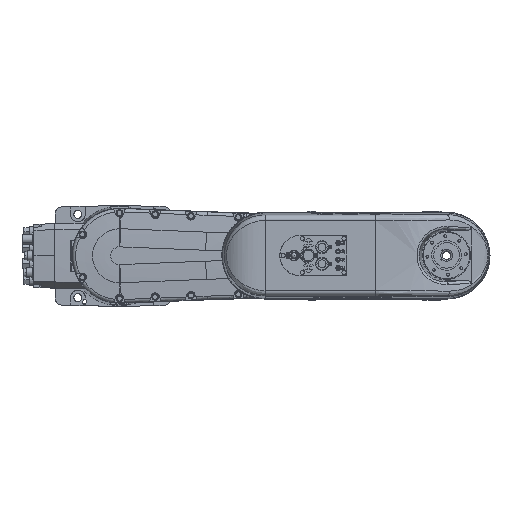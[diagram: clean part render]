
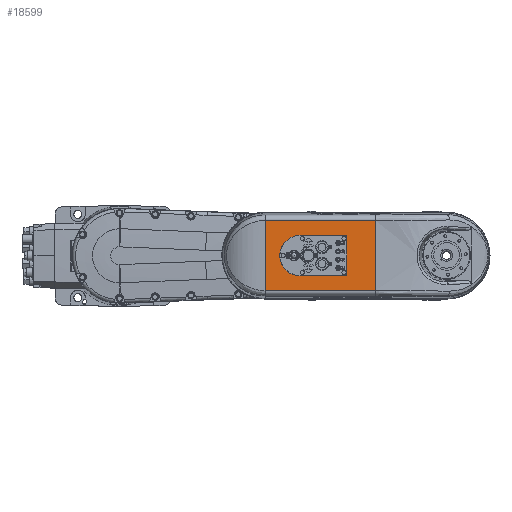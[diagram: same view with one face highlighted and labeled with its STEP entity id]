
A CAD part, top view. The second image highlights one B-rep face of the part: STEP entity #18599.
In plain terms, the highlighted planar face has unit normal (0, 0, 1).
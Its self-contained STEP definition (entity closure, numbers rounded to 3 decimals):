
#91 = ORIENTED_EDGE ( 'NONE', *, *, #44619, .F. ) ;
#2789 = DIRECTION ( 'NONE',  ( 0., 1., 0. ) ) ;
#4004 = AXIS2_PLACEMENT_3D ( 'NONE', #74262, #44926, #35835 ) ;
#4149 = VERTEX_POINT ( 'NONE', #56713 ) ;
#4876 = VECTOR ( 'NONE', #6883, 1000. ) ;
#6363 = EDGE_CURVE ( 'NONE', #64937, #77868, #68388, .T. ) ;
#6883 = DIRECTION ( 'NONE',  ( 1., 0., 0. ) ) ;
#7455 = EDGE_CURVE ( 'NONE', #67828, #27704, #80700, .T. ) ;
#7805 = VERTEX_POINT ( 'NONE', #58183 ) ;
#9921 = CARTESIAN_POINT ( 'NONE',  ( 430., -705.455, 457.7 ) ) ;
#9942 = CARTESIAN_POINT ( 'NONE',  ( 382.5, 33.172, 457.7 ) ) ;
#10127 = CARTESIAN_POINT ( 'NONE',  ( 245., 59.156, 457.7 ) ) ;
#10426 = LINE ( 'NONE', #9921, #66473 ) ;
#11393 = CARTESIAN_POINT ( 'NONE',  ( 382.5, 34., 457.7 ) ) ;
#13379 = LINE ( 'NONE', #65989, #92528 ) ;
#14740 = CARTESIAN_POINT ( 'NONE',  ( 380.501, -34., 457.7 ) ) ;
#15968 = CARTESIAN_POINT ( 'NONE',  ( 382.5, -32.001, 457.7 ) ) ;
#16703 = CARTESIAN_POINT ( 'NONE',  ( 382.5, 34., 457.7 ) ) ;
#16935 = FACE_OUTER_BOUND ( 'NONE', #59125, .T. ) ;
#17011 = DIRECTION ( 'NONE',  ( 0., 1., 0. ) ) ;
#17260 = ORIENTED_EDGE ( 'NONE', *, *, #68317, .T. ) ;
#17294 = ORIENTED_EDGE ( 'NONE', *, *, #7455, .F. ) ;
#18211 = LINE ( 'NONE', #16703, #76614 ) ;
#18599 = ADVANCED_FACE ( 'NONE', ( #46808, #16935 ), #94331, .T. ) ;
#21573 = LINE ( 'NONE', #28669, #4876 ) ;
#21765 = ORIENTED_EDGE ( 'NONE', *, *, #54367, .F. ) ;
#21863 = VECTOR ( 'NONE', #39509, 1000. ) ;
#23748 = VERTEX_POINT ( 'NONE', #29209 ) ;
#24017 = VERTEX_POINT ( 'NONE', #64572 ) ;
#24549 = EDGE_CURVE ( 'NONE', #68958, #98279, #91270, .T. ) ;
#26324 = AXIS2_PLACEMENT_3D ( 'NONE', #86219, #32125, #62981 ) ;
#26765 = ORIENTED_EDGE ( 'NONE', *, *, #72567, .T. ) ;
#27536 = DIRECTION ( 'NONE',  ( 0., 1., 0. ) ) ;
#27704 = VERTEX_POINT ( 'NONE', #73595 ) ;
#28669 = CARTESIAN_POINT ( 'NONE',  ( 382.5, -34., 457.7 ) ) ;
#29209 = CARTESIAN_POINT ( 'NONE',  ( 430., 59.156, 457.7 ) ) ;
#29911 = CARTESIAN_POINT ( 'NONE',  ( 382.5, -32.001, 457.7 ) ) ;
#29930 = DIRECTION ( 'NONE',  ( 1., 0., 0. ) ) ;
#30649 =( BOUNDED_CURVE ( )  B_SPLINE_CURVE ( 3, ( #48390, #79239, #9942, #50413 ),
 .UNSPECIFIED., .F., .F. ) 
 B_SPLINE_CURVE_WITH_KNOTS ( ( 4, 4 ),
 ( 2.357, 3.927 ),
 .UNSPECIFIED. ) 
 CURVE ( )  GEOMETRIC_REPRESENTATION_ITEM ( )  RATIONAL_B_SPLINE_CURVE ( ( 1., 0.805, 0.805, 1. ) ) 
 REPRESENTATION_ITEM ( '' )  );
#32125 = DIRECTION ( 'NONE',  ( 0., 0., 1. ) ) ;
#34508 =( BOUNDED_CURVE ( )  B_SPLINE_CURVE ( 3, ( #29911, #91125, #69356, #14740 ),
 .UNSPECIFIED., .F., .F. ) 
 B_SPLINE_CURVE_WITH_KNOTS ( ( 4, 4 ),
 ( 2.357, 3.927 ),
 .UNSPECIFIED. ) 
 CURVE ( )  GEOMETRIC_REPRESENTATION_ITEM ( )  RATIONAL_B_SPLINE_CURVE ( ( 1., 0.805, 0.805, 1. ) ) 
 REPRESENTATION_ITEM ( '' )  );
#35259 = CARTESIAN_POINT ( 'NONE',  ( 303.5, -34., 457.7 ) ) ;
#35689 = VECTOR ( 'NONE', #2789, 1000. ) ;
#35835 = DIRECTION ( 'NONE',  ( 0., 1., 0. ) ) ;
#36212 = VECTOR ( 'NONE', #29930, 1000. ) ;
#39509 = DIRECTION ( 'NONE',  ( -1., 0., 0. ) ) ;
#40029 = EDGE_LOOP ( 'NONE', ( #21765, #26765, #17294, #93009, #99025, #71868 ) ) ;
#40987 = EDGE_CURVE ( 'NONE', #77868, #23748, #10426, .T. ) ;
#43141 = EDGE_CURVE ( 'NONE', #67828, #4149, #34508, .T. ) ;
#44619 = EDGE_CURVE ( 'NONE', #64937, #24017, #13379, .T. ) ;
#44926 = DIRECTION ( 'NONE',  ( 0., 0., 1. ) ) ;
#46482 = ORIENTED_EDGE ( 'NONE', *, *, #40987, .T. ) ;
#46808 = FACE_BOUND ( 'NONE', #40029, .T. ) ;
#48390 = CARTESIAN_POINT ( 'NONE',  ( 380.501, 34., 457.7 ) ) ;
#50413 = CARTESIAN_POINT ( 'NONE',  ( 382.5, 32.001, 457.7 ) ) ;
#54367 = EDGE_CURVE ( 'NONE', #7805, #68958, #18211, .T. ) ;
#56713 = CARTESIAN_POINT ( 'NONE',  ( 380.501, -34., 457.7 ) ) ;
#58183 = CARTESIAN_POINT ( 'NONE',  ( 380.501, 34., 457.7 ) ) ;
#59125 = EDGE_LOOP ( 'NONE', ( #46482, #17260, #91, #86004 ) ) ;
#62981 = DIRECTION ( 'NONE',  ( 1., 0., 0. ) ) ;
#64572 = CARTESIAN_POINT ( 'NONE',  ( 245., 59.156, 457.7 ) ) ;
#64937 = VERTEX_POINT ( 'NONE', #97632 ) ;
#65989 = CARTESIAN_POINT ( 'NONE',  ( 245., -705.242, 457.7 ) ) ;
#66473 = VECTOR ( 'NONE', #17011, 1000. ) ;
#67828 = VERTEX_POINT ( 'NONE', #15968 ) ;
#68317 = EDGE_CURVE ( 'NONE', #23748, #24017, #78426, .T. ) ;
#68388 = LINE ( 'NONE', #83052, #36212 ) ;
#68958 = VERTEX_POINT ( 'NONE', #83795 ) ;
#69356 = CARTESIAN_POINT ( 'NONE',  ( 381.672, -34., 457.7 ) ) ;
#71868 = ORIENTED_EDGE ( 'NONE', *, *, #24549, .F. ) ;
#72567 = EDGE_CURVE ( 'NONE', #7805, #27704, #30649, .T. ) ;
#73595 = CARTESIAN_POINT ( 'NONE',  ( 382.5, 32.001, 457.7 ) ) ;
#74262 = CARTESIAN_POINT ( 'NONE',  ( 303.5, 0., 457.7 ) ) ;
#76614 = VECTOR ( 'NONE', #77405, 1000. ) ;
#77405 = DIRECTION ( 'NONE',  ( -1., 0., 0. ) ) ;
#77868 = VERTEX_POINT ( 'NONE', #99289 ) ;
#78426 = LINE ( 'NONE', #10127, #21863 ) ;
#79239 = CARTESIAN_POINT ( 'NONE',  ( 381.672, 34., 457.7 ) ) ;
#80700 = LINE ( 'NONE', #11393, #35689 ) ;
#83052 = CARTESIAN_POINT ( 'NONE',  ( 430., -59.156, 457.7 ) ) ;
#83795 = CARTESIAN_POINT ( 'NONE',  ( 303.5, 34., 457.7 ) ) ;
#86004 = ORIENTED_EDGE ( 'NONE', *, *, #6363, .T. ) ;
#86219 = CARTESIAN_POINT ( 'NONE',  ( 245., 0., 457.7 ) ) ;
#91125 = CARTESIAN_POINT ( 'NONE',  ( 382.5, -33.172, 457.7 ) ) ;
#91270 = CIRCLE ( 'NONE', #4004, 34. ) ;
#92528 = VECTOR ( 'NONE', #27536, 1000. ) ;
#93009 = ORIENTED_EDGE ( 'NONE', *, *, #43141, .T. ) ;
#94331 = PLANE ( 'NONE',  #26324 ) ;
#97632 = CARTESIAN_POINT ( 'NONE',  ( 245., -59.156, 457.7 ) ) ;
#98279 = VERTEX_POINT ( 'NONE', #35259 ) ;
#98465 = EDGE_CURVE ( 'NONE', #98279, #4149, #21573, .T. ) ;
#99025 = ORIENTED_EDGE ( 'NONE', *, *, #98465, .F. ) ;
#99289 = CARTESIAN_POINT ( 'NONE',  ( 430., -59.156, 457.7 ) ) ;
